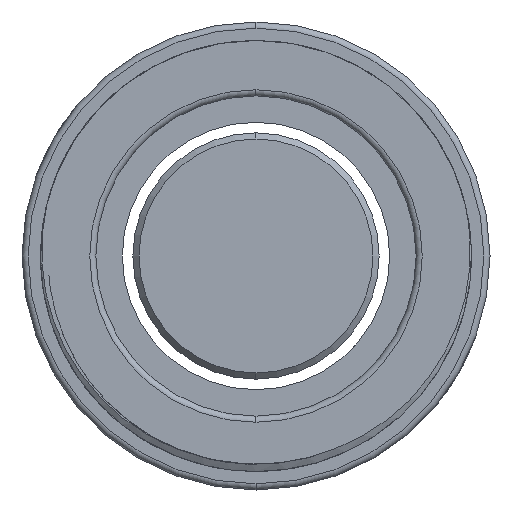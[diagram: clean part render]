
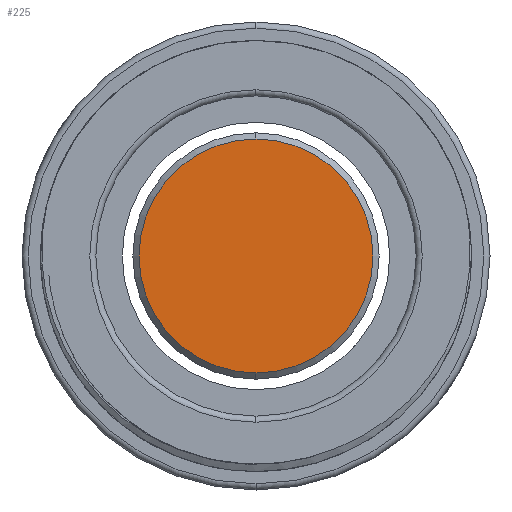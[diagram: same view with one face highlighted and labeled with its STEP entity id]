
A CAD part, left-side view. The second image highlights one B-rep face of the part: STEP entity #225.
In plain terms, the highlighted planar face has unit normal (-1, 0, 0).
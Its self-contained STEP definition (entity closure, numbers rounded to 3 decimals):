
#154 = DIRECTION ( 'NONE',  ( -1., 0., 0. ) ) ;
#225 = ADVANCED_FACE ( 'NONE', ( #1371 ), #813, .T. ) ;
#320 = AXIS2_PLACEMENT_3D ( 'NONE', #3247, #1942, #1395 ) ;
#663 = CIRCLE ( 'NONE', #811, 9.5 ) ;
#670 = CARTESIAN_POINT ( 'NONE',  ( -10., 0., -9.5 ) ) ;
#721 = CARTESIAN_POINT ( 'NONE',  ( -10., 0., 0. ) ) ;
#811 = AXIS2_PLACEMENT_3D ( 'NONE', #721, #2853, #1235 ) ;
#813 = PLANE ( 'NONE',  #320 ) ;
#1179 = AXIS2_PLACEMENT_3D ( 'NONE', #2071, #154, #1811 ) ;
#1235 = DIRECTION ( 'NONE',  ( 0., 0., 1. ) ) ;
#1371 = FACE_OUTER_BOUND ( 'NONE', #2513, .T. ) ;
#1395 = DIRECTION ( 'NONE',  ( 0., 0., 1. ) ) ;
#1644 = VERTEX_POINT ( 'NONE', #670 ) ;
#1780 = CARTESIAN_POINT ( 'NONE',  ( -10., 0., 9.5 ) ) ;
#1811 = DIRECTION ( 'NONE',  ( 0., 0., 1. ) ) ;
#1835 = EDGE_CURVE ( 'NONE', #3355, #1644, #3134, .T. ) ;
#1942 = DIRECTION ( 'NONE',  ( -1., 0., 0. ) ) ;
#2071 = CARTESIAN_POINT ( 'NONE',  ( -10., 0., 0. ) ) ;
#2137 = ORIENTED_EDGE ( 'NONE', *, *, #3356, .T. ) ;
#2185 = ORIENTED_EDGE ( 'NONE', *, *, #1835, .T. ) ;
#2513 = EDGE_LOOP ( 'NONE', ( #2137, #2185 ) ) ;
#2853 = DIRECTION ( 'NONE',  ( -1., 0., 0. ) ) ;
#3134 = CIRCLE ( 'NONE', #1179, 9.5 ) ;
#3247 = CARTESIAN_POINT ( 'NONE',  ( -10., 0., 0. ) ) ;
#3355 = VERTEX_POINT ( 'NONE', #1780 ) ;
#3356 = EDGE_CURVE ( 'NONE', #1644, #3355, #663, .T. ) ;
